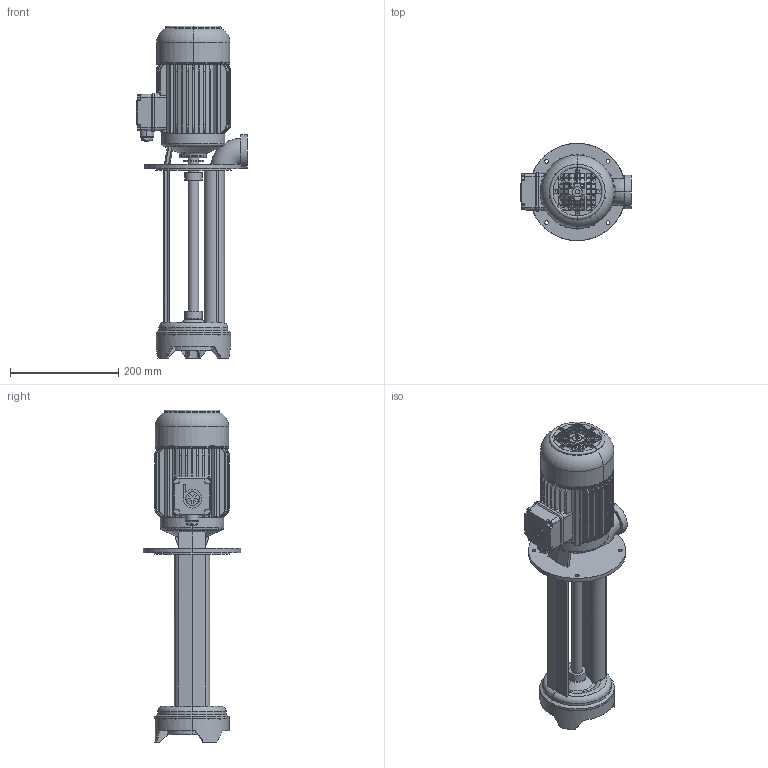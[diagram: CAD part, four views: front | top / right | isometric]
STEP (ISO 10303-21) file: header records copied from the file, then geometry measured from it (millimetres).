
FILE_DESCRIPTION(('no description'),'unknown implementation level');
FILE_NAME('TA250_350_3.stp',' ',('K. H. Brinkmann GmbH & Co. KG'),('CADClick - KiM GmbH - www.kimweb.de'),'unknown preprocess','ACIS','unknown authorization');
FILE_SCHEMA(('automotive_design'));
Length unit declared in the file: millimetre
Products named in the file (3): 1; 2; 3
Bounding box: 205 x 180 x 614 mm (x, y, z)
Volume: 4422983.6 mm3; surface area: 567904.8 mm2
Topology: 3 solids, 3 shells, 855 faces, 2369 edges, 1546 vertices
Faces by surface type: plane 507, cylinder 190, torus 110, cone 48
Entity records: 59258 total; most frequent: CARTESIAN_POINT 10565, STYLED_ITEM 4773, PRESENTATION_STYLE_ASSIGNMENT 4773, COLOUR_RGB 4773, ORIENTED_EDGE 4738, DIRECTION 4513, EDGE_CURVE 2369, CURVE_STYLE 2369
